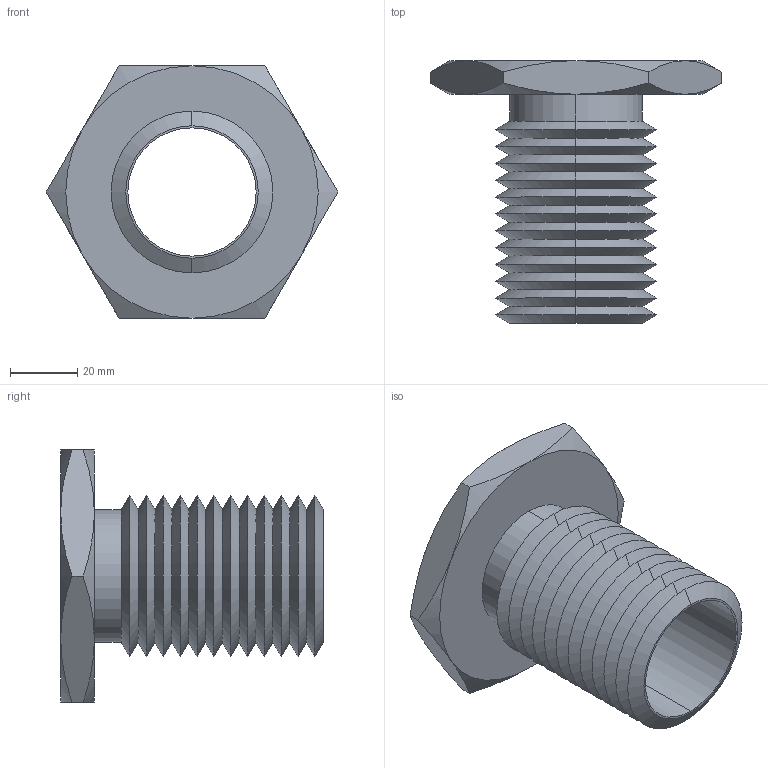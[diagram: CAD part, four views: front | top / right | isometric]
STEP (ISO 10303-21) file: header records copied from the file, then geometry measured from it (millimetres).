
FILE_DESCRIPTION (( 'STEP AP203' ), '1' );
FILE_NAME ('63302.W0048_1,50 UNC-6.step', '2013-12-08T11:20:54', ( 'User' ), ( '' ), 'SwSTEP 2.0', 'SolidWorks 2009', '' );
FILE_SCHEMA (( 'CONFIG_CONTROL_DESIGN' ));
Length unit declared in the file: millimetre
Products named in the file (1): 63302.W0048_1,50 UNC-6
Bounding box: 86.6 x 78 x 75 mm (x, y, z)
Volume: 57604.8 mm3; surface area: 36118.6 mm2
Topology: 1 solids, 1 shells, 75 faces, 154 edges, 82 vertices
Faces by surface type: cone 62, plane 9, cylinder 4
Entity records: 2139 total; most frequent: CARTESIAN_POINT 496, DIRECTION 352, ORIENTED_EDGE 308, EDGE_CURVE 154, AXIS2_PLACEMENT_3D 146, VERTEX_POINT 82, EDGE_LOOP 78, ADVANCED_FACE 75
